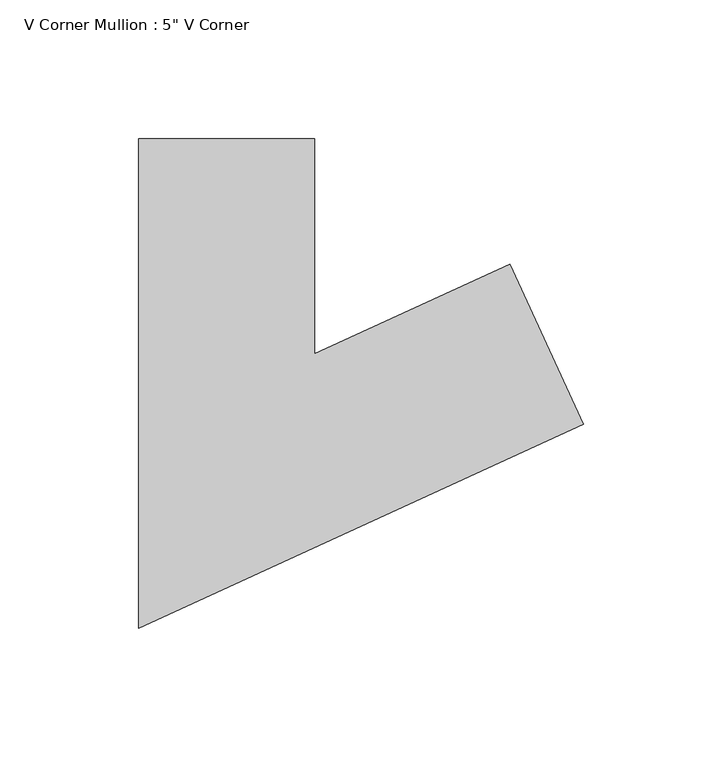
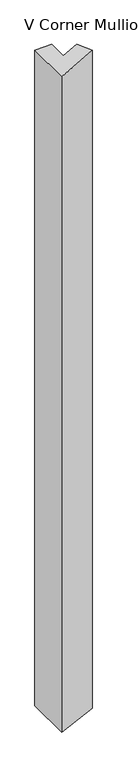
"""IFC4 building model written with IfcOpenShell, lengths in millimetres: member geometry."""

from ifc_helpers import new_model, si_unit, origin, place, context, project, spatial, faceted_brep, source, transform, mapped, element, save


def member_bd770e4f(model_context):
    return source(origin(), model_context, "Body", "Brep", [
        faceted_brep([(61.49523, 18.2208415, 2.3011869), (87.9205542, -39.5195451, 3.2900378), (87.9205542, -39.5195451, -2652.5668359), (61.49523, 18.2208415, -2652.0255121), (-9.0228811, -14.0523047, -0.3376414), (-9.0228811, -14.0523047, -2650.5809458), (-9.0228811, 63.5, -0.3376414), (-9.0228811, 63.5, -2650.5809458), (-72.5228811, 63.5, -2.713848), (-72.5228811, 63.5, -2649.2801458), (-72.5228811, -112.9476953, -2.713848), (-72.5228811, -112.9476953, -2649.2801458)], [[[0, 1, 2, 3]], [[4, 0, 3, 5]], [[6, 4, 5, 7]], [[8, 6, 7, 9]], [[10, 8, 9, 11]], [[1, 10, 11, 2]], [[1, 0, 4, 6, 8, 10]], [[2, 11, 9, 7, 5, 3]]]),
    ])


if __name__ == "__main__":
    model = new_model("IFC4")
    model_context = context("Model", 3, world=origin())
    ifc_project = project(units=[si_unit("LENGTHUNIT", "METRE", prefix="MILLI")], contexts=[model_context])
    site = spatial("IfcSite", under=ifc_project)
    building = spatial("IfcBuilding", under=site)
    placement = place(None, origin())
    member_shape = member_bd770e4f(model_context)
    element("IfcMember", 1, ObjectType="V Corner Mullion : 5\" V Corner", at=placement, inside=building, context=model_context, shape_type="MappedRepresentation", body=[
        mapped(member_shape, transform((0.0, 0.0, 0.0), x_axis=(1.0, 0.0, 0.0), y_axis=(0.0, 1.0, 0.0), z_axis=(0.0, 0.0, 1.0))),
    ])
    save(model, "model.ifc")
